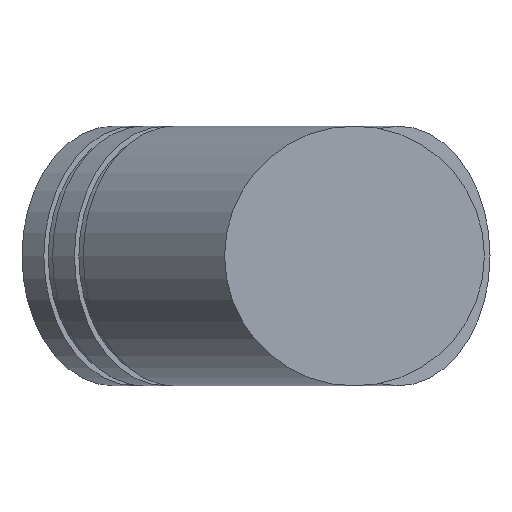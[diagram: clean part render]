
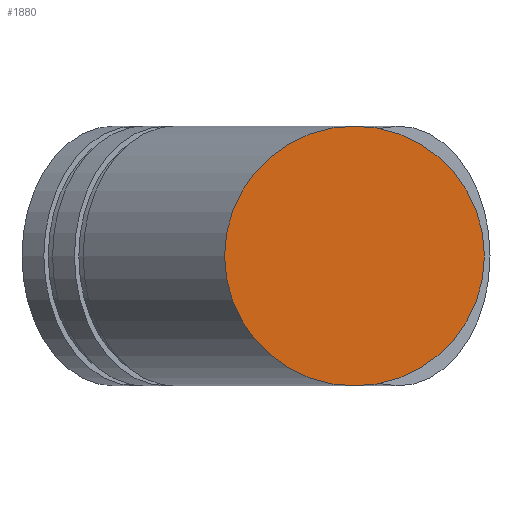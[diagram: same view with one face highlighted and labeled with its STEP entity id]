
A CAD part, front view. The second image highlights one B-rep face of the part: STEP entity #1880.
In plain terms, the highlighted planar face has unit normal (0, -1, 0).
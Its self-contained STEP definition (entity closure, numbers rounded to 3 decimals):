
#105=PLANE('',#2045);
#175=FACE_OUTER_BOUND('',#307,.T.);
#307=EDGE_LOOP('',(#1362));
#706=CIRCLE('',#2044,21.);
#845=VERTEX_POINT('',#2980);
#1038=EDGE_CURVE('',#845,#845,#706,.T.);
#1362=ORIENTED_EDGE('',*,*,#1038,.F.);
#1880=ADVANCED_FACE('',(#175),#105,.F.);
#2044=AXIS2_PLACEMENT_3D('',#2982,#2363,#2364);
#2045=AXIS2_PLACEMENT_3D('',#2983,#2365,#2366);
#2363=DIRECTION('center_axis',(0.,1.,0.));
#2364=DIRECTION('ref_axis',(1.,0.,0.));
#2365=DIRECTION('center_axis',(0.,1.,0.));
#2366=DIRECTION('ref_axis',(1.,0.,0.));
#2980=CARTESIAN_POINT('',(-21.,-42.05,0.));
#2982=CARTESIAN_POINT('Origin',(0.,-42.05,0.));
#2983=CARTESIAN_POINT('Origin',(8.7,-42.05,0.));
